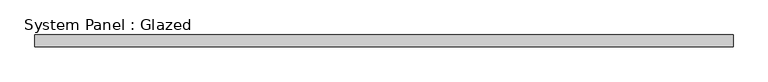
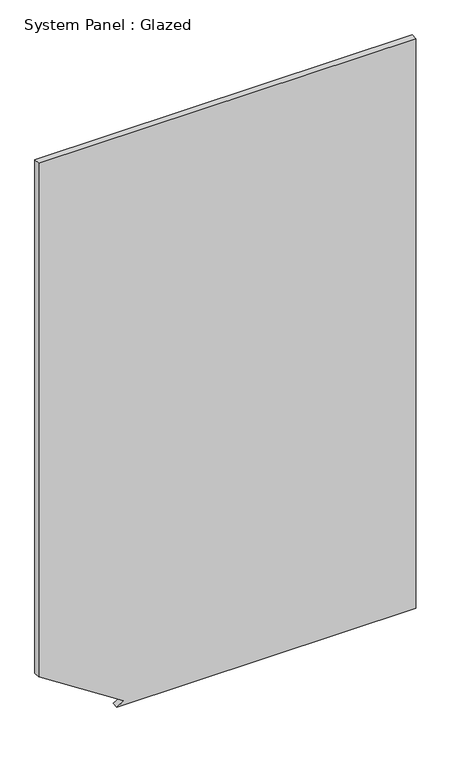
"""IFC4 building model written with IfcOpenShell, lengths in millimetres: plate geometry, System Panel : Glazed."""

from ifc_helpers import new_model, si_unit, frame, origin, place, context, project, spatial, polyline, outline, extrude, source, transform, mapped, element, save


def system_panel_glazed_1282634f(model_context):
    return source(origin(), model_context, "Body", "SweptSolid", [
        extrude(outline(polyline([(0.0, -430.1931005), (0.0, 735.8695652), (2350.0, 735.8695652), (2350.0, -735.8695652), (232.3773357, -735.8695652), (16.9766442, -403.0276566), (0.0, -430.1931005)])), frame((0.0, 24.5, 0.0), z_axis=(0.0, 1.0, 0.0), x_axis=(0.0, 0.0, 1.0)), (0.0, 0.0, 1.0), 25.0),
    ])


if __name__ == "__main__":
    model = new_model("IFC4")
    model_context = context("Model", 3, world=origin())
    ifc_project = project(units=[si_unit("LENGTHUNIT", "METRE", prefix="MILLI")], contexts=[model_context])
    site = spatial("IfcSite", under=ifc_project)
    building = spatial("IfcBuilding", under=site)
    placement = place(None, origin())
    system_panel_glazed_shape = system_panel_glazed_1282634f(model_context)
    element("IfcPlate", 1, ObjectType="System Panel : Glazed", at=placement, inside=building, context=model_context, shape_type="MappedRepresentation", body=[
        mapped(system_panel_glazed_shape, transform((0.0, 0.0, 0.0), x_axis=(1.0, 0.0, 0.0), y_axis=(0.0, 1.0, 0.0), z_axis=(0.0, 0.0, 1.0))),
    ])
    save(model, "model.ifc")
